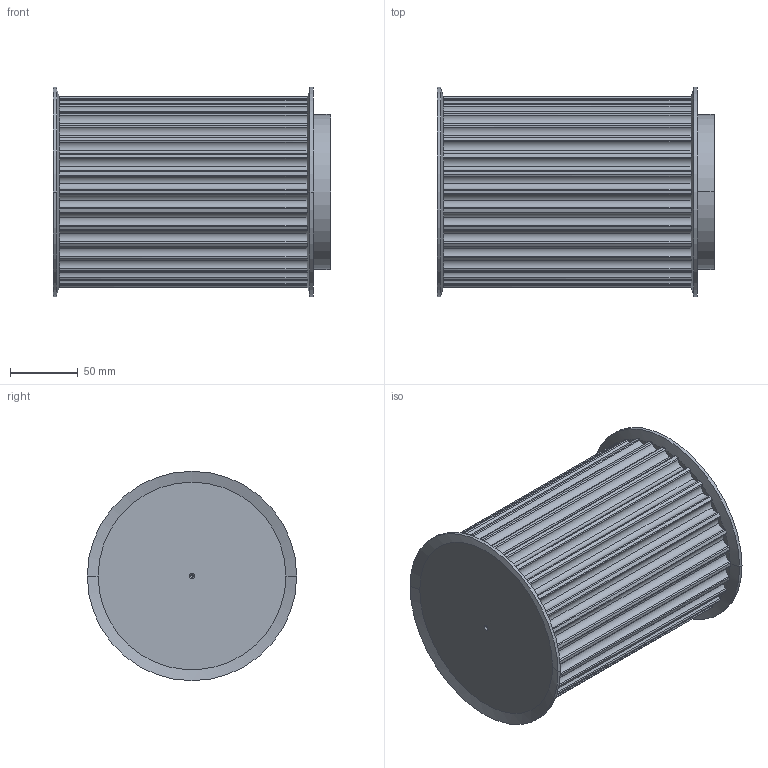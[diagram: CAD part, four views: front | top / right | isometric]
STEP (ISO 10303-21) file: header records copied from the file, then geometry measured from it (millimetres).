
FILE_DESCRIPTION(('STEP AP203'),'1');
FILE_NAME('32_-_14_m_170.stp','2022-04-28T11:34:56',('TraceParts'),('TraceParts S.A.'),'Spatial InterOp 3D',' ',' ');
FILE_SCHEMA(('CONFIG_CONTROL_DESIGN'));
Length unit declared in the file: millimetre
Products named in the file (1): 1
Bounding box: 204.14 x 154 x 154 mm (x, y, z)
Volume: 2842170.5 mm3; surface area: 157972.7 mm2
Topology: 1 solids, 1 shells, 255 faces, 742 edges, 488 vertices
Faces by surface type: cylinder 170, plane 67, cone 18
Entity records: 9558 total; most frequent: CARTESIAN_POINT 3018, ORIENTED_EDGE 1476, DIRECTION 1288, EDGE_CURVE 738, AXIS2_PLACEMENT_3D 550, VERTEX_POINT 488, CIRCLE 294, EDGE_LOOP 258
